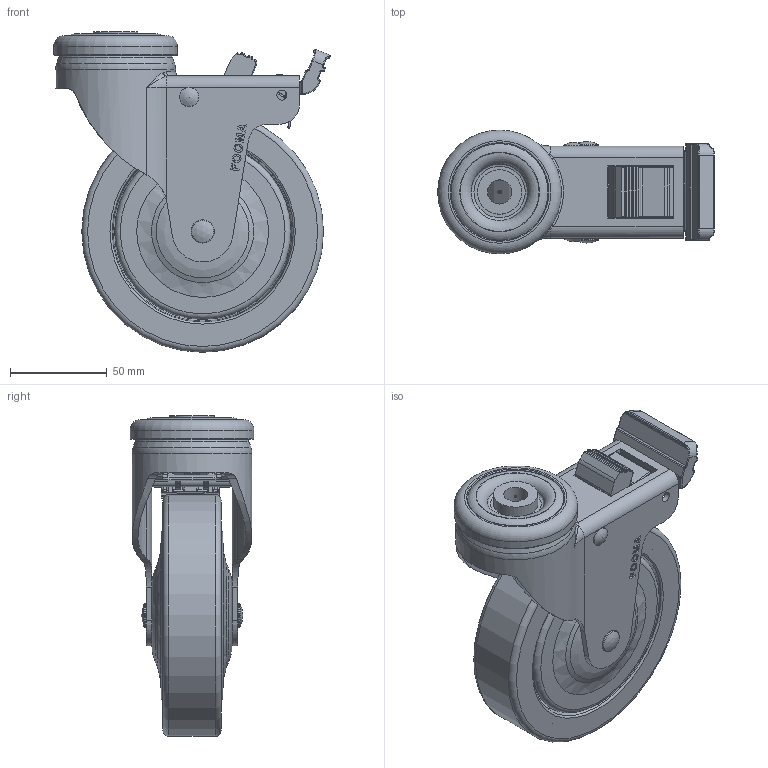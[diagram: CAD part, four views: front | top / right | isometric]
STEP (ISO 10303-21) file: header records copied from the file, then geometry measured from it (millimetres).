
FILE_DESCRIPTION((''),'2;1');
FILE_NAME('C:\Documents and Settings\Administrator\바탕 화면\3D STEP\P-SERIES\P-125-BSS\P-125-BSS.stp','2010-12-27T15:12:48',('Administrator'),(''),'Autodesk Inventor 2009','Autodesk Inventor 2009','');
FILE_SCHEMA(('AUTOMOTIVE_DESIGN { 1 0 10303 214 1 1 1 1 }'));
Length unit declared in the file: millimetre
Products named in the file (1): P-125-BSS
Bounding box: 143 x 64 x 165.8 mm (x, y, z)
Volume: 376256.6 mm3; surface area: 169770.9 mm2
Topology: 14 solids, 14 shells, 1477 faces, 3812 edges, 2374 vertices
Faces by surface type: plane 579, cylinder 501, bspline 212, torus 106, sphere 46, cone 33
Full cylindrical faces by diameter (mm): 1 x1, 2 x2, 3 x3, 4.6 x1, 4.8 x1, 5.2 x2, 5.998 x1, 6.2 x2, 7.8 x1, 8 x2, 8.2 x2, 9.998 x2, 12 x8, 12.5 x1, 18 x5, 22 x5, 23 x1, 31 x1, 34 x1, 50 x1, 54 x2, 56 x1, 59 x1, 60 x1, 62 x1, 64 x1, 86 x2, 91 x2, 124.998 x1
Entity records: 59136 total; most frequent: CARTESIAN_POINT 24828, ORIENTED_EDGE 7088, DIRECTION 6956, EDGE_CURVE 3544, AXIS2_PLACEMENT_3D 2572, VERTEX_POINT 2312, VECTOR 1812, LINE 1812
